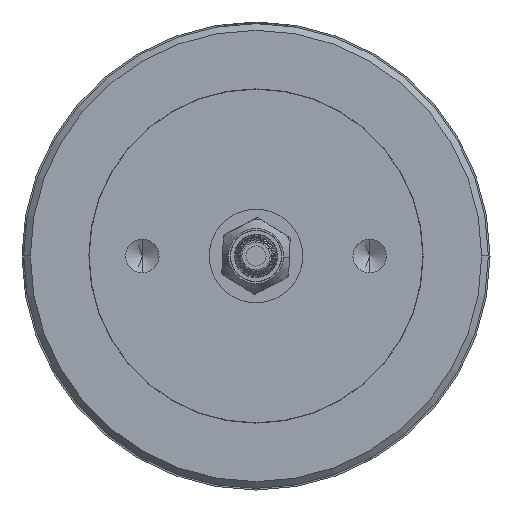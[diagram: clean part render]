
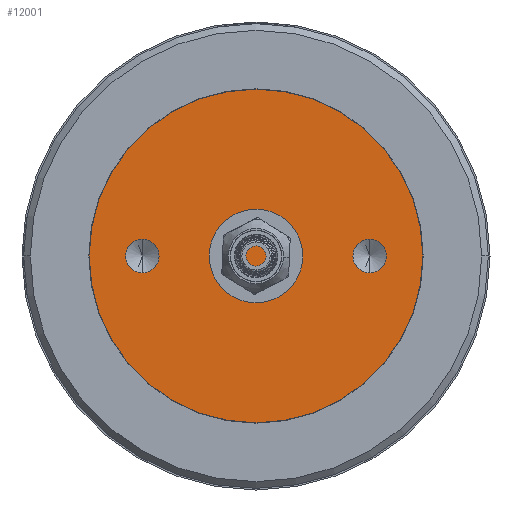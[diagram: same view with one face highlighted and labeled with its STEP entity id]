
A CAD part, left-side view. The second image highlights one B-rep face of the part: STEP entity #12001.
In plain terms, the highlighted planar face has unit normal (-1, 0, 0).
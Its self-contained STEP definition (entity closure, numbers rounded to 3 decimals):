
#76 = DIRECTION ( 'NONE',  ( 0., 0., 1. ) ) ;
#113 = CARTESIAN_POINT ( 'NONE',  ( -250., 0., 0. ) ) ;
#120 = EDGE_LOOP ( 'NONE', ( #7693, #2494 ) ) ;
#682 = CIRCLE ( 'NONE', #8047, 5. ) ;
#729 = CARTESIAN_POINT ( 'NONE',  ( -250., 34., 5. ) ) ;
#810 = CARTESIAN_POINT ( 'NONE',  ( -250., 34., 0. ) ) ;
#1047 = DIRECTION ( 'NONE',  ( -1., 0., 0. ) ) ;
#1288 = ORIENTED_EDGE ( 'NONE', *, *, #9015, .F. ) ;
#1343 = AXIS2_PLACEMENT_3D ( 'NONE', #6613, #10665, #8660 ) ;
#1763 = CIRCLE ( 'NONE', #1343, 5. ) ;
#1836 = EDGE_CURVE ( 'NONE', #9103, #11621, #10862, .T. ) ;
#2279 = DIRECTION ( 'NONE',  ( 0., 0., 1. ) ) ;
#2494 = ORIENTED_EDGE ( 'NONE', *, *, #9417, .F. ) ;
#2547 = AXIS2_PLACEMENT_3D ( 'NONE', #8089, #1047, #4008 ) ;
#2823 = VERTEX_POINT ( 'NONE', #7255 ) ;
#3207 = DIRECTION ( 'NONE',  ( 1., 0., 0. ) ) ;
#3354 = CARTESIAN_POINT ( 'NONE',  ( -250., 0., -49.92 ) ) ;
#4008 = DIRECTION ( 'NONE',  ( 0., 0., 1. ) ) ;
#4733 = AXIS2_PLACEMENT_3D ( 'NONE', #5696, #7473, #12708 ) ;
#5133 = PLANE ( 'NONE',  #10791 ) ;
#5198 = DIRECTION ( 'NONE',  ( 0., 0., -1. ) ) ;
#5318 = DIRECTION ( 'NONE',  ( -1., 0., 0. ) ) ;
#5323 = FACE_BOUND ( 'NONE', #10435, .T. ) ;
#5696 = CARTESIAN_POINT ( 'NONE',  ( -250., 0., 0. ) ) ;
#5811 = EDGE_CURVE ( 'NONE', #2823, #7543, #682, .T. ) ;
#6363 = CARTESIAN_POINT ( 'NONE',  ( -250., -34., 5. ) ) ;
#6613 = CARTESIAN_POINT ( 'NONE',  ( -250., 34., 0. ) ) ;
#6806 = CIRCLE ( 'NONE', #10637, 5. ) ;
#7104 = ORIENTED_EDGE ( 'NONE', *, *, #5811, .F. ) ;
#7255 = CARTESIAN_POINT ( 'NONE',  ( -250., -34., -5. ) ) ;
#7473 = DIRECTION ( 'NONE',  ( -1., 0., 0. ) ) ;
#7543 = VERTEX_POINT ( 'NONE', #6363 ) ;
#7693 = ORIENTED_EDGE ( 'NONE', *, *, #8270, .F. ) ;
#8018 = ORIENTED_EDGE ( 'NONE', *, *, #10745, .T. ) ;
#8047 = AXIS2_PLACEMENT_3D ( 'NONE', #10345, #5318, #2279 ) ;
#8089 = CARTESIAN_POINT ( 'NONE',  ( -250., 0., 0. ) ) ;
#8270 = EDGE_CURVE ( 'NONE', #11322, #11345, #9461, .T. ) ;
#8660 = DIRECTION ( 'NONE',  ( 0., 0., 1. ) ) ;
#9015 = EDGE_CURVE ( 'NONE', #7543, #2823, #6806, .T. ) ;
#9072 = DIRECTION ( 'NONE',  ( -1., 0., 0. ) ) ;
#9103 = VERTEX_POINT ( 'NONE', #12433 ) ;
#9402 = ORIENTED_EDGE ( 'NONE', *, *, #1836, .T. ) ;
#9417 = EDGE_CURVE ( 'NONE', #11345, #11322, #1763, .T. ) ;
#9461 = CIRCLE ( 'NONE', #12835, 5. ) ;
#9489 = EDGE_LOOP ( 'NONE', ( #9402, #8018 ) ) ;
#9516 = CIRCLE ( 'NONE', #2547, 49.92 ) ;
#10102 = FACE_BOUND ( 'NONE', #120, .T. ) ;
#10292 = FACE_OUTER_BOUND ( 'NONE', #9489, .T. ) ;
#10345 = CARTESIAN_POINT ( 'NONE',  ( -250., -34., 0. ) ) ;
#10435 = EDGE_LOOP ( 'NONE', ( #1288, #7104 ) ) ;
#10637 = AXIS2_PLACEMENT_3D ( 'NONE', #13053, #9072, #12044 ) ;
#10665 = DIRECTION ( 'NONE',  ( -1., 0., 0. ) ) ;
#10745 = EDGE_CURVE ( 'NONE', #11621, #9103, #9516, .T. ) ;
#10791 = AXIS2_PLACEMENT_3D ( 'NONE', #113, #3207, #5198 ) ;
#10862 = CIRCLE ( 'NONE', #4733, 49.92 ) ;
#11322 = VERTEX_POINT ( 'NONE', #729 ) ;
#11345 = VERTEX_POINT ( 'NONE', #12621 ) ;
#11621 = VERTEX_POINT ( 'NONE', #3354 ) ;
#11828 = DIRECTION ( 'NONE',  ( -1., 0., 0. ) ) ;
#12001 = ADVANCED_FACE ( 'NONE', ( #5323, #10102, #10292 ), #5133, .F. ) ;
#12044 = DIRECTION ( 'NONE',  ( 0., 0., 1. ) ) ;
#12433 = CARTESIAN_POINT ( 'NONE',  ( -250., 0., 49.92 ) ) ;
#12621 = CARTESIAN_POINT ( 'NONE',  ( -250., 34., -5. ) ) ;
#12708 = DIRECTION ( 'NONE',  ( 0., 0., 1. ) ) ;
#12835 = AXIS2_PLACEMENT_3D ( 'NONE', #810, #11828, #76 ) ;
#13053 = CARTESIAN_POINT ( 'NONE',  ( -250., -34., 0. ) ) ;
